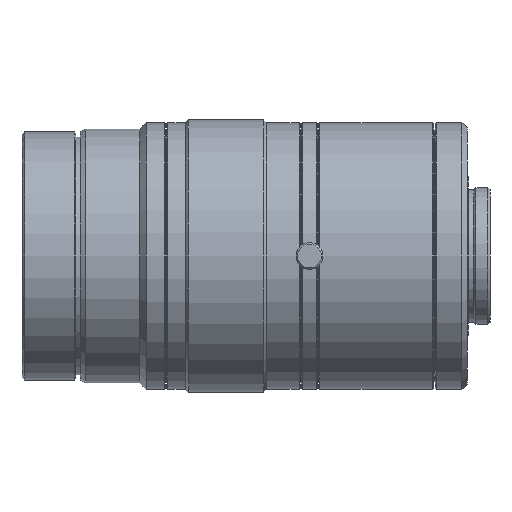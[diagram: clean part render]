
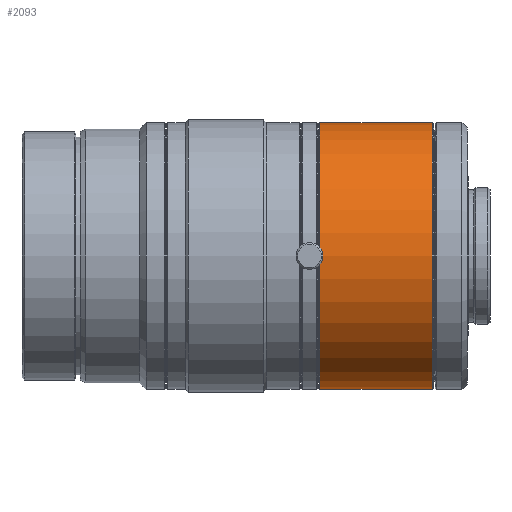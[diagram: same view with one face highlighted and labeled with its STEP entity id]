
A CAD part, front view. The second image highlights one B-rep face of the part: STEP entity #2093.
In plain terms, the highlighted cylindrical face has radius 24.75 mm (diameter 49.5 mm), a partial arc.
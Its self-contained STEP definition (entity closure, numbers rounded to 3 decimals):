
#6 = ORIENTED_EDGE ( 'NONE', *, *, #3251, .F. ) ;
#50 = ORIENTED_EDGE ( 'NONE', *, *, #1878, .T. ) ;
#62 = DIRECTION ( 'NONE',  ( -1., 0., 0. ) ) ;
#105 = VERTEX_POINT ( 'NONE', #3134 ) ;
#164 = CARTESIAN_POINT ( 'NONE',  ( 55.25, 0., 0. ) ) ;
#391 = VERTEX_POINT ( 'NONE', #1144 ) ;
#521 = DIRECTION ( 'NONE',  ( 0., 0., 1. ) ) ;
#837 = VERTEX_POINT ( 'NONE', #2110 ) ;
#918 = CARTESIAN_POINT ( 'NONE',  ( 2.742, 0., 24.75 ) ) ;
#1046 = VECTOR ( 'NONE', #62, 1000. ) ;
#1144 = CARTESIAN_POINT ( 'NONE',  ( 76.15, 0., -24.75 ) ) ;
#1165 = AXIS2_PLACEMENT_3D ( 'NONE', #2107, #4612, #2485 ) ;
#1184 = VERTEX_POINT ( 'NONE', #4159 ) ;
#1487 = EDGE_LOOP ( 'NONE', ( #6, #50, #1876, #4144 ) ) ;
#1731 = EDGE_CURVE ( 'NONE', #105, #837, #2895, .T. ) ;
#1876 = ORIENTED_EDGE ( 'NONE', *, *, #1731, .T. ) ;
#1878 = EDGE_CURVE ( 'NONE', #391, #105, #4002, .T. ) ;
#2093 = ADVANCED_FACE ( 'NONE', ( #3103 ), #3944, .T. ) ;
#2107 = CARTESIAN_POINT ( 'NONE',  ( 76.15, 0., 0. ) ) ;
#2110 = CARTESIAN_POINT ( 'NONE',  ( 55.25, 0., 24.75 ) ) ;
#2330 = CARTESIAN_POINT ( 'NONE',  ( 2.742, 0., 0. ) ) ;
#2485 = DIRECTION ( 'NONE',  ( 0., 0., 1. ) ) ;
#2581 = CARTESIAN_POINT ( 'NONE',  ( 2.742, 0., -24.75 ) ) ;
#2665 = VECTOR ( 'NONE', #3089, 1000. ) ;
#2685 = DIRECTION ( 'NONE',  ( -1., 0., 0. ) ) ;
#2689 = DIRECTION ( 'NONE',  ( -1., 0., 0. ) ) ;
#2791 = AXIS2_PLACEMENT_3D ( 'NONE', #2330, #2689, #4096 ) ;
#2895 = LINE ( 'NONE', #918, #2665 ) ;
#2976 = LINE ( 'NONE', #2581, #1046 ) ;
#3089 = DIRECTION ( 'NONE',  ( -1., 0., 0. ) ) ;
#3103 = FACE_OUTER_BOUND ( 'NONE', #1487, .T. ) ;
#3134 = CARTESIAN_POINT ( 'NONE',  ( 76.15, 0., 24.75 ) ) ;
#3251 = EDGE_CURVE ( 'NONE', #391, #1184, #2976, .T. ) ;
#3693 = EDGE_CURVE ( 'NONE', #1184, #837, #4513, .T. ) ;
#3944 = CYLINDRICAL_SURFACE ( 'NONE', #2791, 24.75 ) ;
#4002 = CIRCLE ( 'NONE', #1165, 24.75 ) ;
#4096 = DIRECTION ( 'NONE',  ( 0., 0., 1. ) ) ;
#4144 = ORIENTED_EDGE ( 'NONE', *, *, #3693, .F. ) ;
#4159 = CARTESIAN_POINT ( 'NONE',  ( 55.25, 0., -24.75 ) ) ;
#4286 = AXIS2_PLACEMENT_3D ( 'NONE', #164, #2685, #521 ) ;
#4513 = CIRCLE ( 'NONE', #4286, 24.75 ) ;
#4612 = DIRECTION ( 'NONE',  ( -1., 0., 0. ) ) ;
